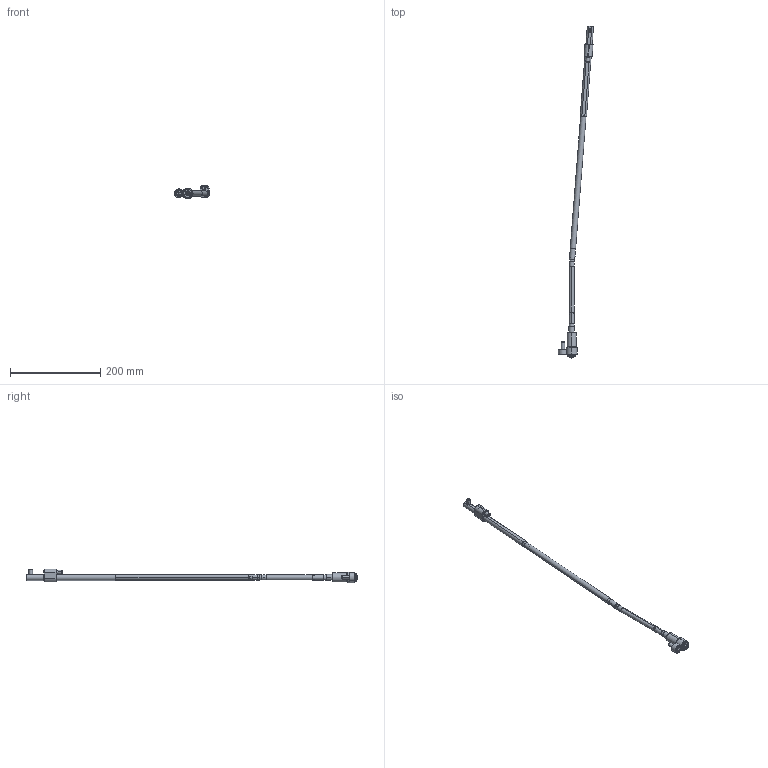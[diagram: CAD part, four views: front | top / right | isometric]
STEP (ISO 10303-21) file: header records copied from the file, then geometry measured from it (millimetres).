
FILE_DESCRIPTION (( 'STEP AP214' ), '1' );
FILE_NAME ('WL120100-INJ 4,5°.STEP', '2021-03-19T15:35:47', ( '' ), ( '' ), 'SwSTEP 2.0', 'SolidWorks 2019', '' );
FILE_SCHEMA (( 'AUTOMOTIVE_DESIGN' ));
Length unit declared in the file: millimetre
Products named in the file (17): WL120100-B1; WL120100-E; WL120100-B; 9DR2808-TOR; Web-WL12-XX_OFF-WL120100-4,5; 3IMAN5X3-150_con sellador; 8WL12EJEP; Web-WL12-F01; WL120100-INJ 4,5°; WL120100-D; Web-WL12-A2; Web-WL12-A8; 1DIN912645_DIN 912 M6 x 45 --- 45C; Web-WL12-A3; Web-WL12-F00.SLDPRT; 1DIN912820_DIN 912 M8 x 20 --- 20C; Web-WL12-A1
Assembly tree (16 placements, depth 3):
  WL120100-INJ 4,5°
    Web-WL12-A8
    Web-WL12-XX_OFF-WL120100-4,5
    Web-WL12-A3
    Web-WL12-A2
    Web-WL12-A1
    Web-WL12-F00.SLDPRT
      Web-WL12-F01
      1DIN912820_DIN 912 M8 x 20 --- 20C
      1DIN912645_DIN 912 M6 x 45 --- 45C
    WL120100-D
    8WL12EJEP
    WL120100-E
    9DR2808-TOR
    WL120100-B
      WL120100-B1
      3IMAN5X3-150_con sellador
Bounding box: 77.86 x 736.89 x 29.9 mm (x, y, z)
Volume: 113341.1 mm3; surface area: 49842.1 mm2
Topology: 15 solids, 15 shells, 432 faces, 906 edges, 525 vertices
Faces by surface type: plane 139, cylinder 123, cone 120, torus 50
Entity records: 13661 total; most frequent: DIRECTION 2240, CARTESIAN_POINT 2104, ORIENTED_EDGE 1788, AXIS2_PLACEMENT_3D 929, EDGE_CURVE 894, VERTEX_POINT 525, EDGE_LOOP 477, CIRCLE 476
